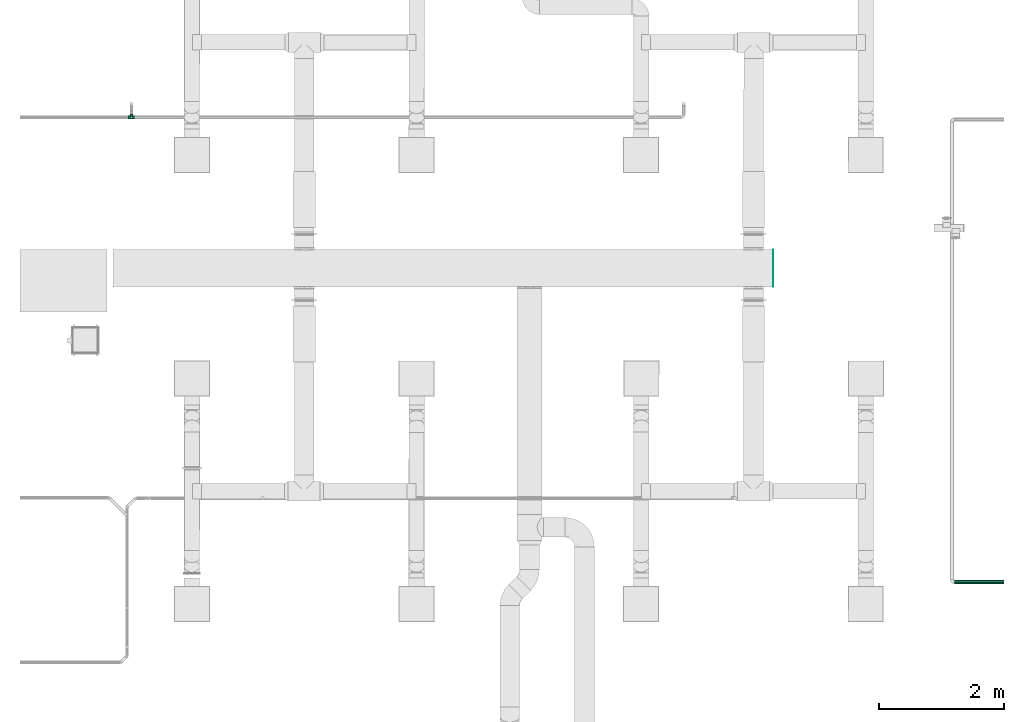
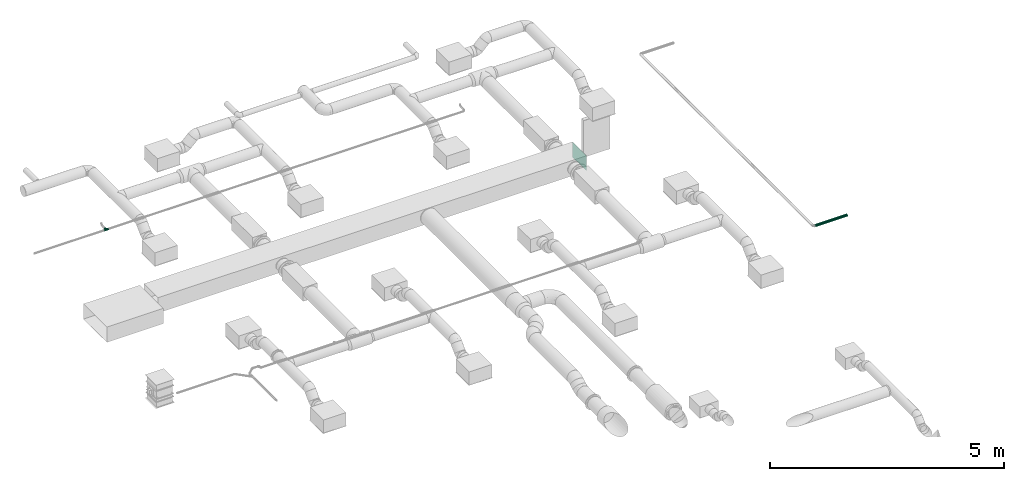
# One storey, part 60 of 63: 2 flow fittings, 1 flow segment.
"""IFC2X3 building model written with IfcOpenShell, lengths in millimetres."""

from ifc_helpers import new_model, entity, si_unit, converted_unit, derived_unit, direction, frame, origin_with_axes, place, context, subcontext, project, spatial, open_shell, faceted_brep, surface_model, source, transform, mapped, type_object, element, save


model = new_model("IFC2X3")

# Units and contexts
model_context = context("Model", 3, precision=0.01, world=frame((0.0, 4.29681676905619e-09, 0.0)), true_north=direction((4.01073788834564e-13, 1.0)))
plan_context = context("Plan", 3, precision=0.01, world=frame((0.0, 4.29681676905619e-09, 0.0)), true_north=direction((4.01073788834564e-13, 1.0)))
body_context = subcontext(model_context, "Body", "Model", "MODEL_VIEW")
ifc_project = project(units=[converted_unit("PLANEANGLEUNIT", "DEGREE", entity("IfcPositiveLengthMeasure", 0.0174532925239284), si_unit("PLANEANGLEUNIT", "RADIAN"), dimensions=[0, 0, 0, 0, 0, 0, 0]), si_unit("AREAUNIT", "SQUARE_METRE"), si_unit("LENGTHUNIT", "METRE", prefix="MILLI"), si_unit("MASSUNIT", "GRAM", prefix="KILO"), si_unit("POWERUNIT", "WATT"), si_unit("PRESSUREUNIT", "PASCAL"), si_unit("FORCEUNIT", "NEWTON", prefix="KILO"), si_unit("ELECTRICVOLTAGEUNIT", "VOLT"), si_unit("ELECTRICCURRENTUNIT", "AMPERE"), si_unit("THERMODYNAMICTEMPERATUREUNIT", "DEGREE_CELSIUS"), si_unit("TIMEUNIT", "SECOND"), si_unit("VOLUMEUNIT", "CUBIC_METRE"), derived_unit("LINEARVELOCITYUNIT", [(si_unit("LENGTHUNIT", "METRE"), 1), (si_unit("TIMEUNIT", "SECOND"), -1)]), derived_unit("VOLUMETRICFLOWRATEUNIT", [(si_unit("VOLUMEUNIT", "CUBIC_METRE"), 1), (si_unit("TIMEUNIT", "SECOND"), -1)]), derived_unit("THERMALTRANSMITTANCEUNIT", [(si_unit("POWERUNIT", "WATT"), 1), (si_unit("THERMODYNAMICTEMPERATUREUNIT", "KELVIN"), -1), (si_unit("AREAUNIT", "SQUARE_METRE"), -1)]), derived_unit("SOUNDPRESSUREUNIT", [(si_unit("PRESSUREUNIT", "PASCAL"), 1)])], contexts=[model_context, plan_context])

# Site, building, storey
site_placement = place(None, frame((0.0, -4.29681676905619e-09, 0.0), z_axis=(0.0, 0.0, 1.0), x_axis=(1.0, 0.0, 0.0)))
site = spatial("IfcSite", under=ifc_project, at=site_placement, CompositionType="ELEMENT")
building_placement = place(site_placement, frame((0.0, 4.29681676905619e-09, 0.0), z_axis=(0.0, 0.0, 1.0), x_axis=(1.0, 0.0, 0.0)))
building = spatial("IfcBuilding", under=site, at=building_placement, Name="mc-building", CompositionType="ELEMENT")
storey_placement = place(building_placement, frame((0.0, 0.0, 210900.0), z_axis=(0.0, 0.0, 1.0), x_axis=(1.0, 0.0, 0.0)))
storey = spatial("IfcBuildingStorey", under=building, at=storey_placement, Name="Nivå F", CompositionType="ELEMENT", Elevation=210900.0)

# Flow fittings
duct_fitting_type_1 = type_object("IfcDuctFittingType", Name="LEPR", PredefinedType="OBSTRUCTION")
shared_shape_1 = source(origin_with_axes(), body_context, "Body", "SurfaceModel", [
    surface_model("IfcShellBasedSurfaceModel", [(0.0, 300.0, 200.0), (0.0, 300.0, -200.0), (0.0, -300.0, -200.0), (0.0, -300.0, 200.0), (0.8, -300.0, -200.0), (0.8, 300.0, -200.0), (0.8, 300.0, 200.0), (0.8, -300.0, 200.0)], [open_shell([[[0, 1, 2]], [[2, 3, 0]], [[4, 5, 6]], [[6, 7, 4]], [[1, 0, 6]], [[6, 5, 1]], [[2, 1, 5]], [[5, 4, 2]], [[3, 2, 4]], [[4, 7, 3]], [[0, 3, 7]], [[7, 6, 0]]])]),
])
flow_fitting_1_placement = place(storey_placement, frame((532618.6479, 456169.0, 4200.0), z_axis=(0.0, 0.0, 1.0), x_axis=(1.0, 0.0, 0.0)))
element("IfcFlowFitting", 1, at=flow_fitting_1_placement, inside=storey, type_object=duct_fitting_type_1, Name="LEPR", context=body_context, shape_type="MappedRepresentation", body=[
    mapped(shared_shape_1, transform((0.0, 0.0, 0.0), scale=1.0)),
])
duct_fitting_type_2 = type_object("IfcDuctFittingType", Name="Lindab TCPU", PredefinedType="JUNCTION")
shared_shape_2 = source(origin_with_axes(), body_context, "Body", "SurfaceModel", [
    surface_model("IfcShellBasedSurfaceModel", [(-50.0, 0.0, -25.0), (-50.0, -6.47048, -24.14815), (-50.0, 6.47048, -24.14815), (-50.0, 24.14815, 6.47048), (-50.0, 12.5, -21.65064), (-50.0, 17.67767, -17.67767), (-50.0, 21.65064, -12.5), (-50.0, -25.0, 0.0), (-50.0, -24.14815, 6.47048), (-50.0, -17.67767, -17.67767), (-50.0, -12.5, -21.65064), (-50.0, -24.14815, -6.47048), (-50.0, -21.65064, -12.5), (-50.0, 24.14815, -6.47048), (-50.0, 21.65064, 12.5), (-50.0, 17.67767, 17.67767), (-50.0, 12.5, 21.65064), (-50.0, -6.47048, 24.14815), (-50.0, 6.47048, 24.14815), (-50.0, -21.65064, 12.5), (-50.0, -17.67767, 17.67767), (-50.0, -12.5, 21.65064), (-50.0, 0.0, 25.0), (-50.0, 25.0, 0.0), (50.0, 6.47048, -24.14815), (50.0, 25.0, 0.0), (50.0, 0.0, -25.0), (50.0, 12.5, -21.65064), (50.0, 17.67767, -17.67767), (50.0, 21.65064, -12.5), (50.0, -17.67767, -17.67767), (50.0, -24.14815, 6.47048), (50.0, -12.5, -21.65064), (50.0, -6.47048, -24.14815), (50.0, -21.65064, -12.5), (50.0, -24.14815, -6.47048), (50.0, -25.0, 0.0), (50.0, 24.14815, -6.47048), (50.0, 24.14815, 6.47048), (50.0, 21.65064, 12.5), (50.0, 0.0, 25.0), (50.0, 17.67767, 17.67767), (50.0, 12.5, 21.65064), (50.0, 6.47048, 24.14815), (50.0, -17.67767, 17.67767), (50.0, -21.65064, 12.5), (50.0, -12.5, 21.65064), (50.0, -6.47048, 24.14815), (0.0, 0.0, 25.0), (0.0, 0.0, -25.0), (-4.20248, -4.20248, -24.64425), (-8.3447, -8.3447, -23.5662), (-12.35391, -12.35391, -21.73432), (-16.13443, -16.13443, -19.0966), (-19.5455, -19.5455, -15.58761), (-22.37013, -22.37013, -11.16141), (-24.30201, -24.30201, -5.86622), (-25.0, -25.0, 0.0), (4.20248, -4.20248, -24.64425), (8.3447, -8.3447, -23.5662), (16.13443, -16.13443, -19.0966), (12.35391, -12.35391, -21.73432), (19.5455, -19.5455, -15.58761), (22.37013, -22.37013, -11.16141), (24.30201, -24.30201, -5.86622), (25.0, -25.0, 0.0), (-24.30201, -24.30201, 5.86622), (-22.37013, -22.37013, 11.16141), (-19.5455, -19.5455, 15.58761), (-16.13443, -16.13443, 19.0966), (-12.35391, -12.35391, 21.73432), (-8.3447, -8.3447, 23.5662), (-4.20248, -4.20248, 24.64425), (24.30201, -24.30201, 5.86622), (22.37013, -22.37013, 11.16141), (19.5455, -19.5455, 15.58761), (16.13443, -16.13443, 19.0966), (12.35391, -12.35391, 21.73432), (8.3447, -8.3447, 23.5662), (4.20248, -4.20248, 24.64425), (0.0, -52.0, -25.0), (6.47048, -52.0, -24.14815), (-6.47048, -52.0, -24.14815), (-24.14815, -52.0, 6.47048), (-12.5, -52.0, -21.65064), (-17.67767, -52.0, -17.67767), (-21.65064, -52.0, -12.5), (25.0, -52.0, 0.0), (24.14815, -52.0, 6.47048), (17.67767, -52.0, -17.67767), (12.5, -52.0, -21.65064), (24.14815, -52.0, -6.47048), (21.65064, -52.0, -12.5), (-24.14815, -52.0, -6.47048), (-21.65064, -52.0, 12.5), (-17.67767, -52.0, 17.67767), (-12.5, -52.0, 21.65064), (6.47048, -52.0, 24.14815), (-6.47048, -52.0, 24.14815), (21.65064, -52.0, 12.5), (17.67767, -52.0, 17.67767), (12.5, -52.0, 21.65064), (0.0, -52.0, 25.0), (-25.0, -52.0, 0.0)], [open_shell([[[0, 1, 2]], [[2, 3, 4]], [[5, 3, 6]], [[4, 3, 5]], [[2, 7, 8]], [[9, 7, 10]], [[1, 10, 7]], [[11, 7, 12]], [[9, 12, 7]], [[7, 2, 1]], [[13, 6, 3]], [[2, 14, 3]], [[15, 14, 2]], [[16, 15, 17]], [[17, 15, 2]], [[17, 18, 16]], [[19, 20, 2]], [[2, 8, 19]], [[21, 2, 20]], [[2, 21, 17]], [[17, 22, 18]], [[23, 13, 3]], [[24, 25, 26]], [[27, 25, 24]], [[28, 29, 25]], [[28, 25, 27]], [[30, 26, 31]], [[26, 30, 32]], [[32, 33, 26]], [[34, 31, 35]], [[34, 30, 31]], [[36, 35, 31]], [[25, 29, 37]], [[26, 38, 39]], [[40, 26, 39]], [[40, 41, 42]], [[40, 39, 41]], [[42, 43, 40]], [[44, 45, 26]], [[31, 26, 45]], [[26, 46, 44]], [[47, 46, 26]], [[40, 47, 26]], [[25, 38, 26]], [[48, 40, 43]], [[16, 43, 42]], [[22, 48, 18]], [[18, 48, 43]], [[43, 16, 18]], [[42, 15, 16]], [[14, 41, 39]], [[3, 39, 38]], [[23, 38, 25]], [[15, 41, 14]], [[14, 39, 3]], [[38, 23, 3]], [[41, 15, 42]], [[37, 29, 6]], [[25, 37, 13]], [[13, 23, 25]], [[6, 13, 37]], [[29, 5, 6]], [[29, 28, 5]], [[4, 28, 27]], [[2, 27, 24]], [[49, 24, 26]], [[4, 27, 2]], [[49, 0, 2]], [[24, 49, 2]], [[28, 4, 5]], [[49, 50, 0]], [[51, 52, 10]], [[50, 51, 1]], [[0, 50, 1]], [[10, 53, 9]], [[10, 1, 51]], [[53, 10, 52]], [[54, 55, 12]], [[56, 57, 7]], [[55, 56, 11]], [[9, 54, 12]], [[12, 55, 11]], [[56, 7, 11]], [[54, 9, 53]], [[58, 26, 33]], [[33, 32, 59]], [[60, 32, 30]], [[60, 61, 32]], [[58, 49, 26]], [[61, 59, 32]], [[58, 33, 59]], [[62, 30, 34]], [[63, 34, 35]], [[64, 35, 36]], [[63, 62, 34]], [[65, 64, 36]], [[63, 35, 64]], [[30, 62, 60]], [[57, 66, 7]], [[67, 68, 19]], [[66, 67, 8]], [[7, 66, 8]], [[8, 67, 19]], [[68, 20, 19]], [[68, 69, 20]], [[70, 71, 21]], [[72, 48, 22]], [[71, 72, 17]], [[69, 21, 20]], [[69, 70, 21]], [[21, 71, 17]], [[72, 22, 17]], [[73, 36, 31]], [[74, 31, 45]], [[75, 45, 44]], [[73, 65, 36]], [[75, 74, 45]], [[73, 31, 74]], [[44, 76, 75]], [[77, 76, 46]], [[46, 76, 44]], [[78, 46, 47]], [[79, 47, 40]], [[78, 77, 46]], [[48, 79, 40]], [[78, 47, 79]], [[80, 81, 82]], [[82, 83, 84]], [[85, 83, 86]], [[84, 83, 85]], [[82, 87, 88]], [[89, 87, 90]], [[81, 90, 87]], [[91, 87, 92]], [[89, 92, 87]], [[87, 82, 81]], [[93, 86, 83]], [[94, 83, 82]], [[95, 94, 82]], [[96, 95, 97]], [[95, 82, 97]], [[97, 98, 96]], [[88, 99, 82]], [[82, 99, 100]], [[82, 100, 101]], [[97, 82, 101]], [[97, 102, 98]], [[103, 93, 83]], [[48, 72, 102]], [[71, 70, 96]], [[72, 71, 98]], [[102, 72, 98]], [[96, 69, 95]], [[96, 98, 71]], [[69, 96, 70]], [[68, 67, 94]], [[66, 57, 103]], [[67, 66, 83]], [[95, 68, 94]], [[94, 67, 83]], [[66, 103, 83]], [[68, 95, 69]], [[57, 56, 103]], [[55, 54, 86]], [[56, 55, 93]], [[103, 56, 93]], [[85, 86, 54]], [[55, 86, 93]], [[54, 53, 85]], [[52, 51, 84]], [[50, 49, 80]], [[51, 50, 82]], [[53, 84, 85]], [[53, 52, 84]], [[84, 51, 82]], [[50, 80, 82]], [[49, 58, 80]], [[59, 61, 90]], [[58, 59, 81]], [[80, 58, 81]], [[90, 60, 89]], [[90, 81, 59]], [[60, 90, 61]], [[62, 63, 92]], [[64, 65, 87]], [[63, 64, 91]], [[89, 62, 92]], [[92, 63, 91]], [[64, 87, 91]], [[62, 89, 60]], [[65, 73, 87]], [[74, 75, 99]], [[73, 74, 88]], [[87, 73, 88]], [[88, 74, 99]], [[75, 100, 99]], [[75, 76, 100]], [[77, 78, 101]], [[79, 48, 102]], [[78, 79, 97]], [[76, 101, 100]], [[76, 77, 101]], [[101, 78, 97]], [[79, 102, 97]]])]),
])
flow_fitting_2_placement = place(storey_placement, frame((522330.0, 458590.0, 4425.0), z_axis=(0.0, 0.0, 1.0), x_axis=(-1.0, 0.0, 0.0)))
element("IfcFlowFitting", 2, at=flow_fitting_2_placement, inside=storey, type_object=duct_fitting_type_2, Name="Lindab TCPU", context=body_context, shape_type="MappedRepresentation", body=[
    mapped(shared_shape_2, transform((0.0, 0.0, 0.0), scale=1.0)),
])

# Flow segment
duct_segment_type = type_object("IfcDuctSegmentType", Name="Støvsuger", PredefinedType="RIGIDSEGMENT")
flow_segment_placement = place(storey_placement, frame((536765.30082, 451140.41456, 4425.0), z_axis=(0.0, 0.0, 1.0), x_axis=(-1.0, 0.0, 0.0)))
element("IfcFlowSegment", 3, at=flow_segment_placement, inside=storey, type_object=duct_segment_type, Name="Støvsuger", context=body_context, shape_type="Brep", body=[
    faceted_brep([(444.800819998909, 30.0366364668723, -5.29626941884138), (444.800819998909, 30.5, 0.0), (1237.0, 30.5, 0.0), (1237.0, 30.0366364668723, -5.29626941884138), (444.800819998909, 28.6606249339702, -10.4316143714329), (1237.0, 28.6606249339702, -10.4316143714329), (444.800819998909, 26.4137748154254, -15.25), (1237.0, 26.4137748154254, -15.25), (444.800819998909, 23.3643555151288, -19.6050220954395), (1237.0, 23.3643555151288, -19.6050220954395), (444.800819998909, 19.6050220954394, -23.3643555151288), (1237.0, 19.6050220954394, -23.3643555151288), (444.800819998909, 15.25, -26.4137748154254), (1237.0, 15.25, -26.4137748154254), (444.800819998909, 10.4316143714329, -28.6606249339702), (1237.0, 10.4316143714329, -28.6606249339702), (444.800819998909, 5.29626941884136, -30.0366364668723), (1237.0, 5.29626941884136, -30.0366364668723), (444.800819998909, -5.60275910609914e-15, -30.5), (1237.0, -5.60275910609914e-15, -30.5), (444.800819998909, -5.29626941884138, -30.0366364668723), (1237.0, -5.29626941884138, -30.0366364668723), (444.800819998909, -10.4316143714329, -28.6606249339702), (1237.0, -10.4316143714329, -28.6606249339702), (444.800819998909, -15.25, -26.4137748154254), (1237.0, -15.25, -26.4137748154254), (444.800819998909, -19.6050220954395, -23.3643555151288), (1237.0, -19.6050220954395, -23.3643555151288), (444.800819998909, -23.3643555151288, -19.6050220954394), (1237.0, -23.3643555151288, -19.6050220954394), (444.800819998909, -26.4137748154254, -15.25), (1237.0, -26.4137748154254, -15.25), (444.800819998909, -28.6606249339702, -10.4316143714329), (1237.0, -28.6606249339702, -10.4316143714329), (444.800819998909, -30.0366364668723, -5.29626941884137), (1237.0, -30.0366364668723, -5.29626941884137), (444.800819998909, -30.5, 3.73517273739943e-15), (1237.0, -30.5, 3.73517273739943e-15), (444.800819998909, -30.0366364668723, 5.29626941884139), (1237.0, -30.0366364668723, 5.29626941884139), (444.800819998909, -28.6606249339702, 10.4316143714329), (1237.0, -28.6606249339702, 10.4316143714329), (444.800819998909, -26.4137748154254, 15.25), (1237.0, -26.4137748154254, 15.25), (444.800819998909, -23.3643555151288, 19.6050220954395), (1237.0, -23.3643555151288, 19.6050220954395), (444.800819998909, -19.6050220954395, 23.3643555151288), (1237.0, -19.6050220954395, 23.3643555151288), (444.800819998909, -15.25, 26.4137748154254), (1237.0, -15.25, 26.4137748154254), (444.800819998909, -10.4316143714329, 28.6606249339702), (1237.0, -10.4316143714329, 28.6606249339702), (444.800819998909, -5.29626941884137, 30.0366364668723), (1237.0, -5.29626941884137, 30.0366364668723), (444.800819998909, 1.86758636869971e-15, 30.5), (1237.0, 1.86758636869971e-15, 30.5), (444.800819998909, 5.29626941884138, 30.0366364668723), (1237.0, 5.29626941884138, 30.0366364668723), (444.800819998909, 10.4316143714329, 28.6606249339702), (1237.0, 10.4316143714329, 28.6606249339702), (444.800819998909, 15.25, 26.4137748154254), (1237.0, 15.25, 26.4137748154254), (444.800819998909, 19.6050220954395, 23.3643555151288), (1237.0, 19.6050220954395, 23.3643555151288), (444.800819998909, 23.3643555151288, 19.6050220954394), (1237.0, 23.3643555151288, 19.6050220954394), (444.800819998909, 26.4137748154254, 15.25), (1237.0, 26.4137748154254, 15.25), (444.800819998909, 28.6606249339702, 10.4316143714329), (1237.0, 28.6606249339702, 10.4316143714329), (444.800819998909, 30.0366364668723, 5.29626941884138), (1237.0, 30.0366364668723, 5.29626941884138), (444.800819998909, 32.5, 0.0), (444.800819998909, 32.0062519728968, -5.64356577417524), (1237.0, 32.0062519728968, -5.64356577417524), (1237.0, 32.5, 0.0), (444.800819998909, 32.0062519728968, 5.64356577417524), (1237.0, 32.0062519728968, 5.64356577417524), (444.800819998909, 30.540010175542, 11.1156546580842), (1237.0, 30.540010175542, 11.1156546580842), (444.800819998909, 28.1458256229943, 16.25), (1237.0, 28.1458256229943, 16.25), (444.800819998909, 24.8964444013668, 20.8905973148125), (1237.0, 24.8964444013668, 20.8905973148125), (444.800819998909, 20.8905973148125, 24.8964444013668), (1237.0, 20.8905973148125, 24.8964444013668), (444.800819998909, 16.25, 28.1458256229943), (1237.0, 16.25, 28.1458256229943), (444.800819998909, 11.1156546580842, 30.540010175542), (1237.0, 11.1156546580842, 30.540010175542), (444.800819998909, 5.64356577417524, 32.0062519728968), (1237.0, 5.64356577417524, 32.0062519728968), (444.800819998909, 1.99005104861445e-15, 32.5), (1237.0, 1.99005104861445e-15, 32.5), (444.800819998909, -5.64356577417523, 32.0062519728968), (1237.0, -5.64356577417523, 32.0062519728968), (444.800819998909, -11.1156546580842, 30.540010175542), (1237.0, -11.1156546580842, 30.540010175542), (444.800819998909, -16.25, 28.1458256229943), (1237.0, -16.25, 28.1458256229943), (444.800819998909, -20.8905973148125, 24.8964444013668), (1237.0, -20.8905973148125, 24.8964444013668), (444.800819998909, -24.8964444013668, 20.8905973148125), (1237.0, -24.8964444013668, 20.8905973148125), (444.800819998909, -28.1458256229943, 16.25), (1237.0, -28.1458256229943, 16.25), (444.800819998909, -30.540010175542, 11.1156546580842), (1237.0, -30.540010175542, 11.1156546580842), (444.800819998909, -32.0062519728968, 5.64356577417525), (1237.0, -32.0062519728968, 5.64356577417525), (444.800819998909, -32.5, 3.9801020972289e-15), (1237.0, -32.5, 3.9801020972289e-15), (444.800819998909, -32.0062519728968, -5.64356577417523), (1237.0, -32.0062519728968, -5.64356577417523), (444.800819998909, -30.540010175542, -11.1156546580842), (1237.0, -30.540010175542, -11.1156546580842), (444.800819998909, -28.1458256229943, -16.25), (1237.0, -28.1458256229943, -16.25), (444.800819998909, -24.8964444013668, -20.8905973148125), (1237.0, -24.8964444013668, -20.8905973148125), (444.800819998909, -20.8905973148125, -24.8964444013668), (1237.0, -20.8905973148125, -24.8964444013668), (444.800819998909, -16.25, -28.1458256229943), (1237.0, -16.25, -28.1458256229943), (444.800819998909, -11.1156546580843, -30.540010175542), (1237.0, -11.1156546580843, -30.540010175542), (444.800819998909, -5.64356577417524, -32.0062519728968), (1237.0, -5.64356577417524, -32.0062519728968), (444.800819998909, -5.97015314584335e-15, -32.5), (1237.0, -5.97015314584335e-15, -32.5), (444.800819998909, 5.64356577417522, -32.0062519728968), (1237.0, 5.64356577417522, -32.0062519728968), (444.800819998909, 11.1156546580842, -30.540010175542), (1237.0, 11.1156546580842, -30.540010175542), (444.800819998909, 16.25, -28.1458256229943), (1237.0, 16.25, -28.1458256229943), (444.800819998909, 20.8905973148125, -24.8964444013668), (1237.0, 20.8905973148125, -24.8964444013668), (444.800819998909, 24.8964444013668, -20.8905973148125), (1237.0, 24.8964444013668, -20.8905973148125), (444.800819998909, 28.1458256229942, -16.25), (1237.0, 28.1458256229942, -16.25), (444.800819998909, 30.540010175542, -11.1156546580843), (1237.0, 30.540010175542, -11.1156546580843)], [[[0, 1, 2, 3]], [[4, 0, 3, 5]], [[6, 4, 5, 7]], [[8, 6, 7, 9]], [[10, 8, 9, 11]], [[12, 10, 11, 13]], [[14, 12, 13, 15]], [[16, 14, 15, 17]], [[18, 16, 17, 19]], [[20, 18, 19, 21]], [[22, 20, 21, 23]], [[24, 22, 23, 25]], [[26, 24, 25, 27]], [[28, 26, 27, 29]], [[30, 28, 29, 31]], [[32, 30, 31, 33]], [[34, 32, 33, 35]], [[36, 34, 35, 37]], [[38, 36, 37, 39]], [[40, 38, 39, 41]], [[42, 40, 41, 43]], [[44, 42, 43, 45]], [[46, 44, 45, 47]], [[48, 46, 47, 49]], [[50, 48, 49, 51]], [[52, 50, 51, 53]], [[54, 52, 53, 55]], [[56, 54, 55, 57]], [[58, 56, 57, 59]], [[60, 58, 59, 61]], [[62, 60, 61, 63]], [[64, 62, 63, 65]], [[66, 64, 65, 67]], [[68, 66, 67, 69]], [[70, 68, 69, 71]], [[1, 70, 71, 2]], [[72, 73, 74, 75]], [[76, 72, 75, 77]], [[78, 76, 77, 79]], [[80, 78, 79, 81]], [[82, 80, 81, 83]], [[84, 82, 83, 85]], [[86, 84, 85, 87]], [[88, 86, 87, 89]], [[90, 88, 89, 91]], [[92, 90, 91, 93]], [[94, 92, 93, 95]], [[96, 94, 95, 97]], [[98, 96, 97, 99]], [[100, 98, 99, 101]], [[102, 100, 101, 103]], [[104, 102, 103, 105]], [[106, 104, 105, 107]], [[108, 106, 107, 109]], [[110, 108, 109, 111]], [[112, 110, 111, 113]], [[114, 112, 113, 115]], [[116, 114, 115, 117]], [[118, 116, 117, 119]], [[120, 118, 119, 121]], [[122, 120, 121, 123]], [[124, 122, 123, 125]], [[126, 124, 125, 127]], [[128, 126, 127, 129]], [[130, 128, 129, 131]], [[132, 130, 131, 133]], [[134, 132, 133, 135]], [[136, 134, 135, 137]], [[138, 136, 137, 139]], [[140, 138, 139, 141]], [[142, 140, 141, 143]], [[73, 142, 143, 74]], [[75, 74, 143, 141, 139, 137, 135, 133, 131, 129, 127, 125, 123, 121, 119, 117, 115, 113, 111, 109, 107, 105, 103, 101, 99, 97, 95, 93, 91, 89, 87, 85, 83, 81, 79, 77], [2, 71, 69, 67, 65, 63, 61, 59, 57, 55, 53, 51, 49, 47, 45, 43, 41, 39, 37, 35, 33, 31, 29, 27, 25, 23, 21, 19, 17, 15, 13, 11, 9, 7, 5, 3]], [[76, 78, 80, 82, 84, 86, 88, 90, 92, 94, 96, 98, 100, 102, 104, 106, 108, 110, 112, 114, 116, 118, 120, 122, 124, 126, 128, 130, 132, 134, 136, 138, 140, 142, 73, 72], [4, 6, 8, 10, 12, 14, 16, 18, 20, 22, 24, 26, 28, 30, 32, 34, 36, 38, 40, 42, 44, 46, 48, 50, 52, 54, 56, 58, 60, 62, 64, 66, 68, 70, 1, 0]]], orient=[[False], [False], [False], [False], [False], [False], [False], [False], [False], [False], [False], [False], [False], [False], [False], [False], [False], [False], [False], [False], [False], [False], [False], [False], [False], [False], [False], [False], [False], [False], [False], [False], [False], [False], [False], [False], [False], [False], [False], [False], [False], [False], [False], [False], [False], [False], [False], [False], [False], [False], [False], [False], [False], [False], [False], [False], [False], [False], [False], [False], [False], [False], [False], [False], [False], [False], [False], [False], [False], [False], [False], [False], [False, False], [False, False]]),
])

save(model, "model.ifc")
